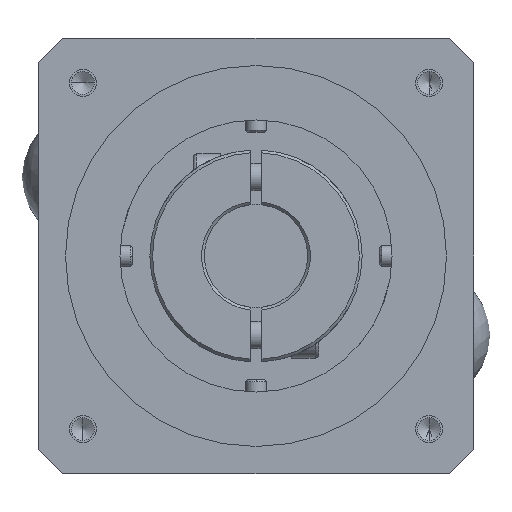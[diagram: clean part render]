
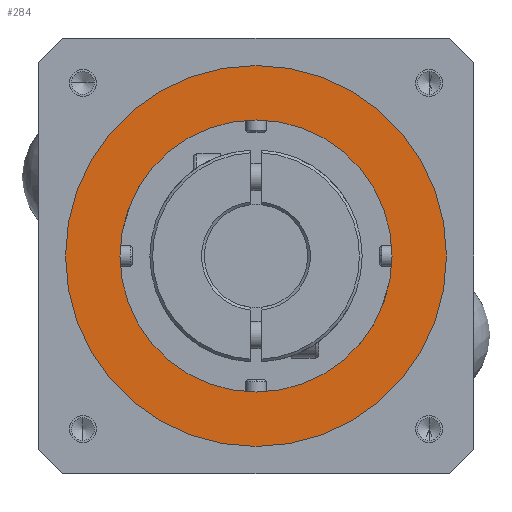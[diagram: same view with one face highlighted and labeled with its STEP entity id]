
A CAD part, left-side view. The second image highlights one B-rep face of the part: STEP entity #284.
In plain terms, the highlighted planar face has unit normal (-1, 0, 0) as drawn and (0, 0, 1) by its records, which use the part's own axes.
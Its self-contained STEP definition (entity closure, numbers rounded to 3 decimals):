
#105 = ORIENTED_EDGE ( 'NONE', *, *, #9048, .T. ) ;
#111 = DIRECTION ( 'NONE',  ( 0., 0., 1. ) ) ;
#198 = DIRECTION ( 'NONE',  ( 0., 0., 1. ) ) ;
#284 = ADVANCED_FACE ( 'NONE', ( #1605, #5519 ), #2916, .T. ) ;
#558 = VERTEX_POINT ( 'NONE', #6555 ) ;
#974 = EDGE_LOOP ( 'NONE', ( #105, #4455 ) ) ;
#1185 = DIRECTION ( 'NONE',  ( 1., 0., 0. ) ) ;
#1452 = CARTESIAN_POINT ( 'NONE',  ( 25., 0., 33.5 ) ) ;
#1605 = FACE_BOUND ( 'NONE', #10396, .T. ) ;
#1666 = CIRCLE ( 'NONE', #8644, 25. ) ;
#1874 = CIRCLE ( 'NONE', #11905, 35. ) ;
#1963 = ORIENTED_EDGE ( 'NONE', *, *, #9849, .T. ) ;
#2067 = DIRECTION ( 'NONE',  ( 0., 0., -1. ) ) ;
#2204 = EDGE_CURVE ( 'NONE', #10930, #5414, #2956, .T. ) ;
#2364 = DIRECTION ( 'NONE',  ( 1., 0., 0. ) ) ;
#2859 = CARTESIAN_POINT ( 'NONE',  ( 0., 0., 33.5 ) ) ;
#2916 = PLANE ( 'NONE',  #9825 ) ;
#2956 = CIRCLE ( 'NONE', #10610, 25. ) ;
#4281 = DIRECTION ( 'NONE',  ( 1., 0., 0. ) ) ;
#4294 = DIRECTION ( 'NONE',  ( 1., 0., 0. ) ) ;
#4386 = CARTESIAN_POINT ( 'NONE',  ( 0., 0., 33.5 ) ) ;
#4455 = ORIENTED_EDGE ( 'NONE', *, *, #10110, .T. ) ;
#4656 = CARTESIAN_POINT ( 'NONE',  ( 0., 0., 33.5 ) ) ;
#4976 = CIRCLE ( 'NONE', #10224, 35. ) ;
#5104 = DIRECTION ( 'NONE',  ( 0., 0., 1. ) ) ;
#5414 = VERTEX_POINT ( 'NONE', #1452 ) ;
#5519 = FACE_OUTER_BOUND ( 'NONE', #974, .T. ) ;
#5783 = ORIENTED_EDGE ( 'NONE', *, *, #2204, .T. ) ;
#6555 = CARTESIAN_POINT ( 'NONE',  ( -35., 0., 33.5 ) ) ;
#7035 = CARTESIAN_POINT ( 'NONE',  ( 35., 0., 33.5 ) ) ;
#8071 = CARTESIAN_POINT ( 'NONE',  ( 0., 0., 33.5 ) ) ;
#8636 = DIRECTION ( 'NONE',  ( 0., 0., -1. ) ) ;
#8644 = AXIS2_PLACEMENT_3D ( 'NONE', #4656, #8636, #10645 ) ;
#9048 = EDGE_CURVE ( 'NONE', #12032, #558, #1874, .T. ) ;
#9825 = AXIS2_PLACEMENT_3D ( 'NONE', #8071, #111, #1185 ) ;
#9849 = EDGE_CURVE ( 'NONE', #5414, #10930, #1666, .T. ) ;
#10110 = EDGE_CURVE ( 'NONE', #558, #12032, #4976, .T. ) ;
#10224 = AXIS2_PLACEMENT_3D ( 'NONE', #4386, #198, #4294 ) ;
#10396 = EDGE_LOOP ( 'NONE', ( #1963, #5783 ) ) ;
#10610 = AXIS2_PLACEMENT_3D ( 'NONE', #2859, #2067, #2364 ) ;
#10645 = DIRECTION ( 'NONE',  ( 1., 0., 0. ) ) ;
#10930 = VERTEX_POINT ( 'NONE', #11573 ) ;
#11170 = CARTESIAN_POINT ( 'NONE',  ( 0., 0., 33.5 ) ) ;
#11573 = CARTESIAN_POINT ( 'NONE',  ( -25., 0., 33.5 ) ) ;
#11905 = AXIS2_PLACEMENT_3D ( 'NONE', #11170, #5104, #4281 ) ;
#12032 = VERTEX_POINT ( 'NONE', #7035 ) ;
